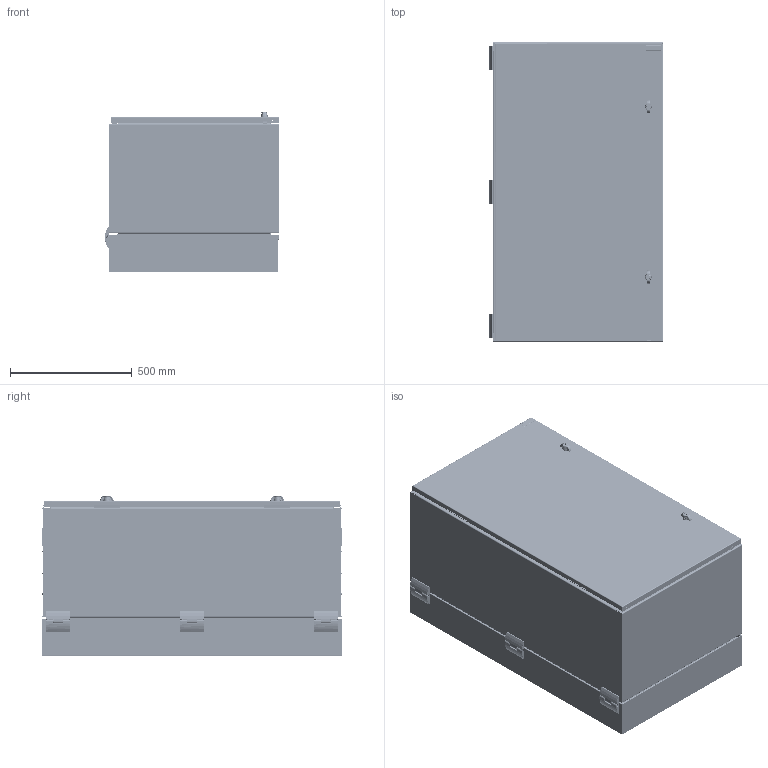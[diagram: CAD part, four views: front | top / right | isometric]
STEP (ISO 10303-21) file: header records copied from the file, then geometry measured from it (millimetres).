
FILE_DESCRIPTION (( 'STEP AP203' ), '1' );
FILE_NAME ('pths482824g4.STEP', '2011-12-07T15:43:01', ( 'Hoffman User' ), ( 'Hoffman Enclosures' ), 'SwSTEP 2.0', 'SolidWorks 2010', '' );
FILE_SCHEMA (( 'CONFIG_CONTROL_DESIGN' ));
Products named in the file (48): pths482824g4; 89080962; 89080961; 89080282; 89060191; 89071699_Installed Config; 89080968; 89078337; 89078336; 89080280; 99401225; 89080965_89080965; 89080964_Compressed wdw gasket; 89080963_89080963; 60127101_60127101; 60100041_60100041; 87931527_87931527; 87931368_SLEEVE; 89080967; 89071927_FOR 16GA; 99407418; 87928600; 64138001; 89066975; 89066980; 89066979_WITH STAKE; 89066976; 89066978; 89066977; 87540581; 87790199; 60127214_601272214; 87790201_87790201; 60127135_Installed postion; 60127199_60127199; 56906712_56906712; 89060213; 89070550; 89070549; 89056327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
Assembly tree (117 placements, depth 5):
  pths482824g4
    89066975  x3
    87937103_body cbl mgr horz
    89071543_89071543  x3
    89060606_89060606  x2
    60127214_601272214  x2
      87790201_87790201
      60127135_Installed postion
      60127199_60127199
      56906712_56906712
    89060213  x3
    89066978  x3
      87540581
      89066977
    89066980  x3
      89066976
      87540581
      89066979_WITH STAKE
    87790199  x2
    89060214  x3
    87927990_87927990  x2
    89060212  x3
    89070550  x3
      89056327
      89070549
    89080968
      99401225  x28
      89080280  x2
      89078337
      89078336
      60100041_60100041  x2
        87931527_87931527
        87931368_SLEEVE
    89080965_89080965
      89071927_FOR 16GA  x2
      99407418  x2
      87928600
      64138001  x2
      89080964_Compressed wdw gasket
        89080963_89080963
        60100041_60100041
          87931527_87931527
          87931368_SLEEVE
        60127101_60127101  x2
        89080967
    89072125_87931339  x2
    89080962
      89071699_Installed Config  x7
      89080282  x2
      89080961
      89080967
      89060191  x2
      60100041_60100041
        87931527_87931527
        87931368_SLEEVE
    87927989_9U
Bounding box: 716 x 1233 x 659.17 mm (x, y, z)
Volume: 10636810.1 mm3; surface area: 11394711.5 mm2
Topology: 127 solids, 147 shells, 16803 faces, 42663 edges, 25995 vertices
Faces by surface type: plane 5757, cylinder 5175, bspline 3715, torus 1128, cone 692, sphere 336
Entity records: 718637 total; most frequent: CARTESIAN_POINT 502843, ORIENTED_EDGE 48510, DIRECTION 36039, EDGE_CURVE 24255, VERTEX_POINT 15028, AXIS2_PLACEMENT_3D 12890, LINE 10259, VECTOR 10259
